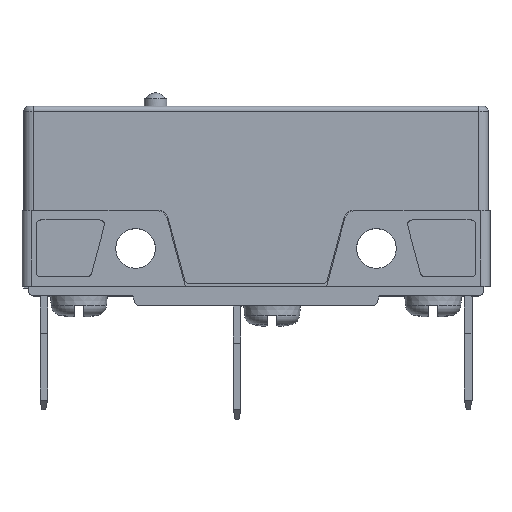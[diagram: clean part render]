
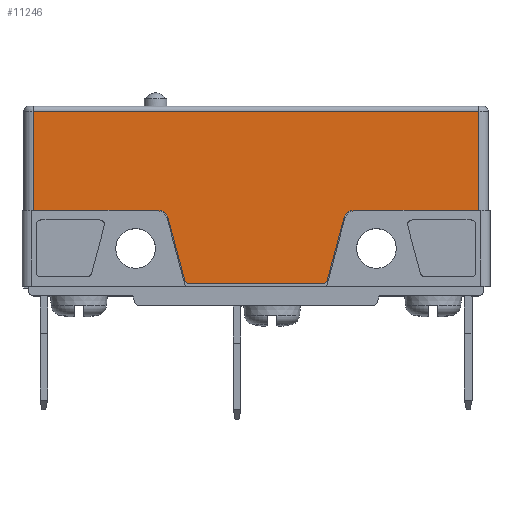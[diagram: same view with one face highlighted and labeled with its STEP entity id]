
A CAD part, top view. The second image highlights one B-rep face of the part: STEP entity #11246.
In plain terms, the highlighted planar face has unit normal (0, 0, 1).
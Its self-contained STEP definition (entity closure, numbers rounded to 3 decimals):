
#10769=CARTESIAN_POINT('',(23.221,2.2,8.5));
#10770=VERTEX_POINT('',#10769);
#10777=CARTESIAN_POINT('',(22.967,2.2,8.5));
#10778=VERTEX_POINT('',#10777);
#10779=CARTESIAN_POINT('',(23.221,2.2,8.5));
#10780=DIRECTION('',(-1.0,0.0,0.0));
#10781=VECTOR('',#10780,0.253);
#10782=LINE('',#10779,#10781);
#10783=EDGE_CURVE('',#10770,#10778,#10782,.T.);
#10801=CARTESIAN_POINT('',(2.179,2.2,8.5));
#10802=VERTEX_POINT('',#10801);
#10817=CARTESIAN_POINT('',(2.433,2.2,8.5));
#10818=VERTEX_POINT('',#10817);
#10825=CARTESIAN_POINT('',(2.179,2.2,8.5));
#10826=DIRECTION('',(1.0,0.0,0.0));
#10827=VECTOR('',#10826,0.253);
#10828=LINE('',#10825,#10827);
#10829=EDGE_CURVE('',#10802,#10818,#10828,.T.);
#10952=CARTESIAN_POINT('',(-10.8,2.2,8.5));
#10953=VERTEX_POINT('',#10952);
#10961=CARTESIAN_POINT('',(-10.8,12.7,8.5));
#10962=VERTEX_POINT('',#10961);
#10963=CARTESIAN_POINT('',(-10.8,2.2,8.5));
#10964=DIRECTION('',(0.0,1.0,0.0));
#10965=VECTOR('',#10964,10.5);
#10966=LINE('',#10963,#10965);
#10967=EDGE_CURVE('',#10953,#10962,#10966,.T.);
#11150=CARTESIAN_POINT('',(12.7,5.888,8.5));
#11151=DIRECTION('',(0.0,0.0,1.0));
#11152=DIRECTION('',(1.0,0.0,0.0));
#11153=AXIS2_PLACEMENT_3D('',#11150,#11151,#11152);
#11154=PLANE('',#11153);
#11155=CARTESIAN_POINT('',(2.179,2.2,8.5));
#11156=DIRECTION('',(-1.0,0.0,0.0));
#11157=VECTOR('',#11156,12.979);
#11158=LINE('',#11155,#11157);
#11159=EDGE_CURVE('',#10802,#10953,#11158,.T.);
#11160=ORIENTED_EDGE('',*,*,#11159,.F.);
#11161=ORIENTED_EDGE('',*,*,#10829,.T.);
#11162=CARTESIAN_POINT('',(3.399,1.459,8.5));
#11163=VERTEX_POINT('',#11162);
#11164=CARTESIAN_POINT('',(2.433,1.2,8.5));
#11165=DIRECTION('',(0.0,0.0,1.0));
#11166=DIRECTION('',(0.966,0.259,0.0));
#11167=AXIS2_PLACEMENT_3D('',#11164,#11165,#11166);
#11168=CIRCLE('',#11167,1.0);
#11169=EDGE_CURVE('',#11163,#10818,#11168,.T.);
#11170=ORIENTED_EDGE('',*,*,#11169,.F.);
#11171=CARTESIAN_POINT('',(5.164,-5.129,8.5));
#11172=VERTEX_POINT('',#11171);
#11173=CARTESIAN_POINT('',(5.164,-5.129,8.5));
#11174=DIRECTION('',(-0.259,0.966,0.0));
#11175=VECTOR('',#11174,6.821);
#11176=LINE('',#11173,#11175);
#11177=EDGE_CURVE('',#11172,#11163,#11176,.T.);
#11178=ORIENTED_EDGE('',*,*,#11177,.F.);
#11179=CARTESIAN_POINT('',(5.647,-5.5,8.5));
#11180=VERTEX_POINT('',#11179);
#11181=CARTESIAN_POINT('',(5.647,-5.,8.5));
#11182=DIRECTION('',(0.0,0.0,-1.));
#11183=DIRECTION('',(0.966,0.259,0.0));
#11184=AXIS2_PLACEMENT_3D('',#11181,#11182,#11183);
#11185=CIRCLE('',#11184,0.5);
#11186=EDGE_CURVE('',#11180,#11172,#11185,.T.);
#11187=ORIENTED_EDGE('',*,*,#11186,.F.);
#11188=CARTESIAN_POINT('',(19.753,-5.5,8.5));
#11189=VERTEX_POINT('',#11188);
#11190=CARTESIAN_POINT('',(19.753,-5.5,8.5));
#11191=DIRECTION('',(-1.0,0.0,0.0));
#11192=VECTOR('',#11191,14.106);
#11193=LINE('',#11190,#11192);
#11194=EDGE_CURVE('',#11189,#11180,#11193,.T.);
#11195=ORIENTED_EDGE('',*,*,#11194,.F.);
#11196=CARTESIAN_POINT('',(20.236,-5.129,8.5));
#11197=VERTEX_POINT('',#11196);
#11198=CARTESIAN_POINT('',(19.753,-5.,8.5));
#11199=DIRECTION('',(0.0,0.0,-1.0));
#11200=DIRECTION('',(0.0,1.0,0.0));
#11201=AXIS2_PLACEMENT_3D('',#11198,#11199,#11200);
#11202=CIRCLE('',#11201,0.5);
#11203=EDGE_CURVE('',#11197,#11189,#11202,.T.);
#11204=ORIENTED_EDGE('',*,*,#11203,.F.);
#11205=CARTESIAN_POINT('',(22.001,1.459,8.5));
#11206=VERTEX_POINT('',#11205);
#11207=CARTESIAN_POINT('',(22.001,1.459,8.5));
#11208=DIRECTION('',(-0.259,-0.966,0.0));
#11209=VECTOR('',#11208,6.821);
#11210=LINE('',#11207,#11209);
#11211=EDGE_CURVE('',#11206,#11197,#11210,.T.);
#11212=ORIENTED_EDGE('',*,*,#11211,.F.);
#11213=CARTESIAN_POINT('',(22.967,1.2,8.5));
#11214=DIRECTION('',(0.0,0.0,1.0));
#11215=DIRECTION('',(0.0,1.0,0.0));
#11216=AXIS2_PLACEMENT_3D('',#11213,#11214,#11215);
#11217=CIRCLE('',#11216,1.);
#11218=EDGE_CURVE('',#10778,#11206,#11217,.T.);
#11219=ORIENTED_EDGE('',*,*,#11218,.F.);
#11220=ORIENTED_EDGE('',*,*,#10783,.F.);
#11221=CARTESIAN_POINT('',(36.2,2.2,8.5));
#11222=VERTEX_POINT('',#11221);
#11223=CARTESIAN_POINT('',(36.2,2.2,8.5));
#11224=DIRECTION('',(-1.0,0.0,0.0));
#11225=VECTOR('',#11224,12.979);
#11226=LINE('',#11223,#11225);
#11227=EDGE_CURVE('',#11222,#10770,#11226,.T.);
#11228=ORIENTED_EDGE('',*,*,#11227,.F.);
#11229=CARTESIAN_POINT('',(36.2,12.7,8.5));
#11230=VERTEX_POINT('',#11229);
#11231=CARTESIAN_POINT('',(36.2,12.7,8.5));
#11232=DIRECTION('',(0.0,-1.0,0.0));
#11233=VECTOR('',#11232,10.5);
#11234=LINE('',#11231,#11233);
#11235=EDGE_CURVE('',#11230,#11222,#11234,.T.);
#11236=ORIENTED_EDGE('',*,*,#11235,.F.);
#11237=CARTESIAN_POINT('',(-10.8,12.7,8.5));
#11238=DIRECTION('',(1.0,0.0,0.0));
#11239=VECTOR('',#11238,47.);
#11240=LINE('',#11237,#11239);
#11241=EDGE_CURVE('',#10962,#11230,#11240,.T.);
#11242=ORIENTED_EDGE('',*,*,#11241,.F.);
#11243=ORIENTED_EDGE('',*,*,#10967,.F.);
#11244=EDGE_LOOP('',(#11160,#11161,#11170,#11178,#11187,#11195,#11204,#11212,#11219,#11220,#11228,#11236,#11242,#11243));
#11245=FACE_OUTER_BOUND('',#11244,.T.);
#11246=ADVANCED_FACE('',(#11245),#11154,.T.);
